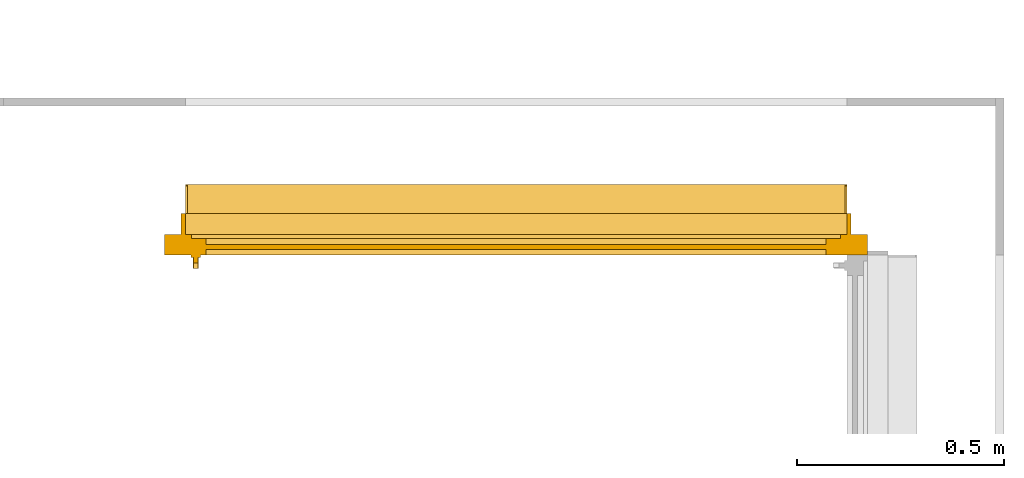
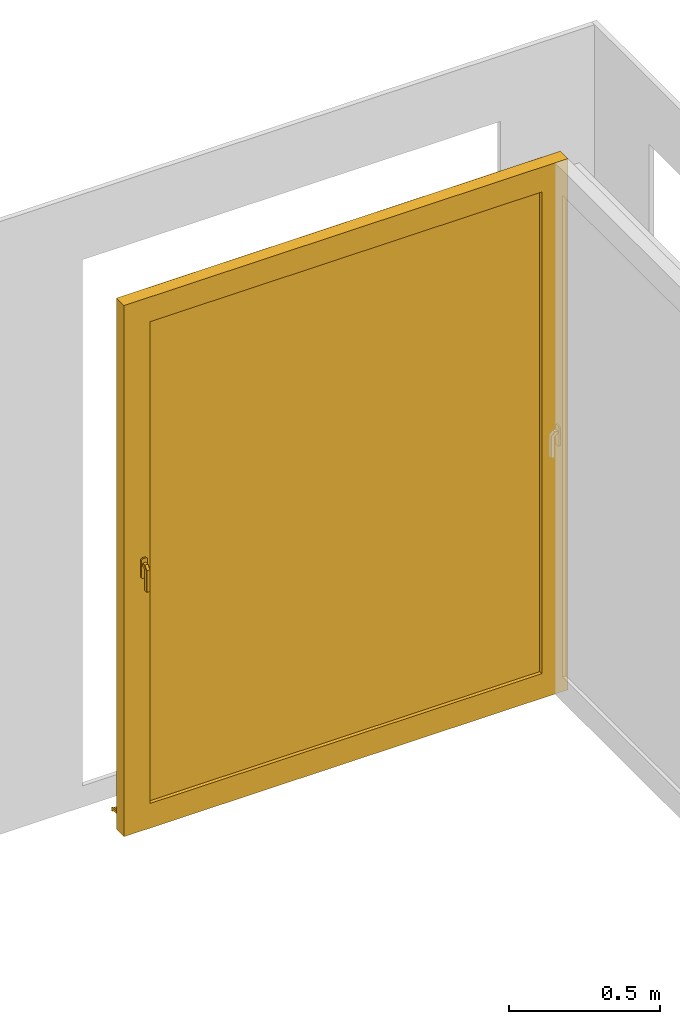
# One storey, part 6 of 6: 1 window.
"""IFC2X3 building model written with IfcOpenShell, lengths in centimetres."""

from ifc_helpers import new_model, entity, si_unit, converted_unit, derived_unit, direction, frame, origin, place, context, subcontext, project, spatial, faceted_brep, source, transform, mapped, material, material_list, type_object, type_shapes, element, save


model = new_model("IFC2X3")

# Units and contexts
model_context = context("Model", 3, precision=0.001, world=origin(), true_north=direction((6.12303176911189e-17, 1.0)))
body_context = subcontext(model_context, "Body", "Model", "MODEL_VIEW")
ifc_project = project(units=[si_unit("LENGTHUNIT", "METRE", prefix="CENTI"), si_unit("AREAUNIT", "SQUARE_METRE"), si_unit("VOLUMEUNIT", "CUBIC_METRE"), converted_unit("PLANEANGLEUNIT", "DEGREE", entity("IfcRatioMeasure", 0.0174532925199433), si_unit("PLANEANGLEUNIT", "RADIAN"), dimensions=[0, 0, 0, 0, 0, 0, 0]), si_unit("MASSUNIT", "GRAM", prefix="KILO"), derived_unit("MASSDENSITYUNIT", [(si_unit("MASSUNIT", "GRAM", prefix="KILO"), 1), (si_unit("LENGTHUNIT", "METRE"), -3)]), derived_unit("MOMENTOFINERTIAUNIT", [(si_unit("LENGTHUNIT", "METRE"), 4)]), si_unit("TIMEUNIT", "SECOND"), si_unit("FREQUENCYUNIT", "HERTZ"), si_unit("THERMODYNAMICTEMPERATUREUNIT", "DEGREE_CELSIUS"), derived_unit("THERMALTRANSMITTANCEUNIT", [(si_unit("MASSUNIT", "GRAM", prefix="KILO"), 1), (si_unit("THERMODYNAMICTEMPERATUREUNIT", "KELVIN"), -1), (si_unit("TIMEUNIT", "SECOND"), -3)]), derived_unit("VOLUMETRICFLOWRATEUNIT", [(si_unit("LENGTHUNIT", "METRE"), 3), (si_unit("TIMEUNIT", "SECOND"), -1)]), si_unit("ELECTRICCURRENTUNIT", "AMPERE"), si_unit("ELECTRICVOLTAGEUNIT", "VOLT"), si_unit("POWERUNIT", "WATT"), si_unit("FORCEUNIT", "NEWTON", prefix="KILO"), si_unit("ILLUMINANCEUNIT", "LUX"), si_unit("LUMINOUSFLUXUNIT", "LUMEN"), si_unit("LUMINOUSINTENSITYUNIT", "CANDELA"), derived_unit("USERDEFINED", [(si_unit("MASSUNIT", "GRAM", prefix="KILO"), -1), (si_unit("LENGTHUNIT", "METRE"), -2), (si_unit("TIMEUNIT", "SECOND"), 3), (si_unit("LUMINOUSFLUXUNIT", "LUMEN"), 1)]), derived_unit("LINEARVELOCITYUNIT", [(si_unit("LENGTHUNIT", "METRE"), 1), (si_unit("TIMEUNIT", "SECOND"), -1)]), si_unit("PRESSUREUNIT", "PASCAL"), derived_unit("USERDEFINED", [(si_unit("LENGTHUNIT", "METRE"), -2), (si_unit("MASSUNIT", "GRAM", prefix="KILO"), 1), (si_unit("TIMEUNIT", "SECOND"), -2)]), derived_unit("LINEARFORCEUNIT", [(si_unit("MASSUNIT", "GRAM", prefix="KILO"), 1), (si_unit("LENGTHUNIT", "METRE"), 1), (si_unit("TIMEUNIT", "SECOND"), -2), (si_unit("LENGTHUNIT", "METRE"), -1)]), derived_unit("PLANARFORCEUNIT", [(si_unit("MASSUNIT", "GRAM", prefix="KILO"), 1), (si_unit("LENGTHUNIT", "METRE"), 1), (si_unit("TIMEUNIT", "SECOND"), -2), (si_unit("LENGTHUNIT", "METRE"), -2)])], contexts=[model_context])

# Site, building, storey
site_placement = place(None, origin())
site = spatial("IfcSite", under=ifc_project, at=site_placement, Name="Surface", CompositionType="ELEMENT")
building_placement = place(site_placement, origin())
building = spatial("IfcBuilding", under=site, at=building_placement, CompositionType="ELEMENT")
storey_placement = place(building_placement, origin())
storey = spatial("IfcBuildingStorey", under=building, at=storey_placement, Name="1_Rez-de-chaussée", CompositionType="ELEMENT", Elevation=-7.93413063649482e-11)

# Window
ifc_material_1 = material(Name="Fenêtre - Poignée")
ifc_material_2 = material(Name="Fenêtre - Appui")
ifc_material_3 = material(Name="Fenêtre - Vitrage")
ifc_material_4 = material(Name="Fenêtre - Cadre")
ifc_material_list_1 = material_list([ifc_material_1, ifc_material_2, ifc_material_3, ifc_material_4])
ifc_material_list_2 = material_list([ifc_material_3, ifc_material_1, ifc_material_2, ifc_material_4])
window_style = type_object("IfcWindowStyle", Name="PF 1 Vantail - Droite blanc:160/210", ConstructionType="NOTDEFINED", OperationType="SINGLE_PANEL", ParameterTakesPrecedence=False, Sizeable=False, material=ifc_material_list_2)
shared_shape = source(origin(), body_context, "Body", "Brep", [
    faceted_brep([(8.06460096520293, -58.600000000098, 112.203392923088), (8.20339292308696, -58.600000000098, 112.064600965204), (8.20339292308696, -58.600000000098, 110.933230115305), (8.0667698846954, -58.600000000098, 110.796607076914), (6.93323011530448, -58.600000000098, 110.796607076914), (6.79660707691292, -58.600000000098, 110.933230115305), (6.79660707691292, -58.600000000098, 112.064600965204), (6.93539903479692, -58.600000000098, 112.203392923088), (8.06460096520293, -59.8913548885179, 112.203392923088), (8.20339292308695, -59.8338653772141, 112.064600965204), (8.20339292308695, -61.1646009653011, 110.733865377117), (8.20339292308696, -61.1646009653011, 102.0), (8.20339292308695, -60.0332301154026, 102.0), (8.20339292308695, -60.0332301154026, 110.265236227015), (8.20339292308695, -59.3652362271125, 110.933230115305), (8.0667698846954, -59.3086451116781, 110.796607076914), (6.93323011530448, -59.3086451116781, 110.796607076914), (6.79660707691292, -59.3652362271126, 110.933230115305), (6.79660707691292, -60.0332301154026, 110.265236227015), (6.79660707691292, -60.0332301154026, 102.0), (6.79660707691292, -61.1646009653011, 102.0), (6.79660707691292, -61.1646009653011, 110.733865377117), (6.79660707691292, -59.8338653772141, 112.064600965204), (6.93539903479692, -59.8913548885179, 112.203392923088), (8.06460096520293, -61.3033929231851, 110.79135488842), (8.0667698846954, -59.896607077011, 110.208645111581), (6.93323011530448, -59.896607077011, 110.208645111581), (6.93539903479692, -61.3033929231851, 110.79135488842), (8.06460096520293, -61.3033929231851, 102.0), (6.93539903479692, -61.3033929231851, 102.0), (6.93323011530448, -59.896607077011, 102.0), (8.0667698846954, -59.896607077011, 102.0)], [[[0, 1, 2, 3, 4, 5, 6, 7]], [[1, 0, 8, 9]], [[2, 1, 9, 10, 11, 12, 13, 14]], [[3, 2, 14, 15]], [[4, 3, 15, 16]], [[5, 4, 16, 17]], [[6, 5, 17, 18, 19, 20, 21, 22]], [[7, 6, 22, 23]], [[0, 7, 23, 8]], [[9, 8, 24, 10]], [[15, 14, 13, 25]], [[16, 15, 25, 26]], [[17, 16, 26, 18]], [[23, 22, 21, 27]], [[8, 23, 27, 24]], [[28, 29, 20, 19, 30, 31, 12, 11]], [[10, 24, 28, 11]], [[25, 13, 12, 31]], [[26, 25, 31, 30]], [[18, 26, 30, 19]], [[27, 21, 20, 29]], [[24, 27, 29, 28]]]),
    faceted_brep([(8.20000000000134, -58.6000000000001, 114.0), (6.79999999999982, -58.6000000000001, 114.0), (6.29999999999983, -58.6000000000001, 113.5), (6.29999999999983, -58.6000000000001, 106.499999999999), (6.79999999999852, -58.6000000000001, 106.0), (8.20000000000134, -58.6000000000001, 106.0), (8.69999999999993, -58.6000000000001, 106.499999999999), (8.69999999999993, -58.6000000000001, 113.5), (8.20000000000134, -58.0, 114.0), (8.69999999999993, -58.0, 113.5), (8.69999999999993, -58.0, 106.499999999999), (8.20000000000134, -58.0, 106.0), (6.79999999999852, -58.0, 106.0), (6.29999999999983, -58.0, 106.499999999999), (6.29999999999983, -58.0, 113.5), (6.79999999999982, -58.0, 114.0)], [[[0, 1, 2, 3, 4, 5, 6, 7]], [[8, 9, 10, 11, 12, 13, 14, 15]], [[1, 0, 8, 15]], [[2, 1, 15, 14]], [[3, 2, 14, 13]], [[4, 3, 13, 12]], [[5, 4, 12, 11]], [[6, 5, 11, 10]], [[7, 6, 10, 9]], [[0, 7, 9, 8]]]),
    faceted_brep([(165.0, -40.9971122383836, 3.07927954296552), (165.0, -49.4999999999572, 3.97296905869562), (165.0, -49.4999999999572, 5.0), (165.0, -50.0, 5.0), (165.0, -50.0, 3.4999999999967), (165.0, -41.4971122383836, 2.60631048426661), (165.0, -41.4971122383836, 2.0240114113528), (165.0, -40.9971122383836, 1.97145929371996), (5.0, -40.9971122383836, 3.07927954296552), (5.0, -40.9971122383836, 1.97145929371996), (5.0, -41.4971122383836, 2.0240114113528), (5.0, -41.4971122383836, 2.60631048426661), (5.0, -50.0, 3.4999999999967), (5.0, -50.0, 5.0), (5.0, -49.4999999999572, 5.0), (5.0, -49.4999999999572, 3.97296905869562)], [[[0, 1, 2, 3, 4, 5, 6, 7]], [[8, 9, 10, 11, 12, 13, 14, 15]], [[1, 0, 8, 15]], [[2, 1, 15, 14]], [[3, 2, 14, 13]], [[4, 3, 13, 12]], [[5, 4, 12, 11]], [[6, 5, 11, 10]], [[7, 6, 10, 9]], [[0, 7, 9, 8]]]),
    faceted_brep([(5.0, -40.9971122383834, 3.22187206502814), (5.0, -40.9971122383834, 3.07927954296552), (5.0, -49.4999999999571, 3.97296905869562), (5.0, -49.4999999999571, 4.47572319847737), (5.0, -41.3553008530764, 3.61968082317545), (5.0, -41.0998543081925, 3.48952430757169), (5.49999999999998, -49.4999999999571, 4.47572319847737), (5.49999999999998, -49.4999999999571, 3.97296905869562), (5.49999999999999, -40.9971122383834, 3.07927954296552), (5.49999999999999, -40.9971122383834, 3.22187206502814), (5.49999999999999, -41.0998543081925, 3.48952430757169), (5.49999999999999, -41.3553008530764, 3.61968082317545)], [[[0, 1, 2, 3, 4, 5]], [[6, 7, 8, 9, 10, 11]], [[2, 1, 8, 7]], [[3, 2, 7, 6]], [[4, 3, 6, 11]], [[4, 11, 10, 5]], [[10, 9, 0, 5]], [[1, 0, 9, 8]]]),
    faceted_brep([(164.5, -40.9971122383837, 3.22187206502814), (164.5, -40.9971122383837, 3.07927954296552), (164.5, -49.4999999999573, 3.97296905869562), (164.5, -49.4999999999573, 4.47572319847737), (164.5, -41.3553008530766, 3.61968082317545), (164.5, -41.0998543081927, 3.48952430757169), (165.0, -49.4999999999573, 4.47572319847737), (165.0, -49.4999999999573, 3.97296905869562), (165.0, -40.9971122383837, 3.07927954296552), (165.0, -40.9971122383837, 3.22187206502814), (165.0, -41.0998543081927, 3.48952430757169), (165.0, -41.3553008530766, 3.61968082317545)], [[[0, 1, 2, 3, 4, 5]], [[6, 7, 8, 9, 10, 11]], [[2, 1, 8, 7]], [[3, 2, 7, 6]], [[4, 3, 6, 11]], [[4, 11, 10, 5]], [[10, 9, 0, 5]], [[1, 0, 9, 8]]]),
    faceted_brep([(10.0, -55.4000000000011, 13.4999999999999), (10.0, -55.4000000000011, 208.5), (160.0, -55.4000000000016, 208.5), (160.0, -55.4000000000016, 13.4999999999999), (10.0, -56.6000000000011, 13.4999999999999), (10.0, -56.6000000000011, 208.5), (160.0, -56.6000000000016, 208.5), (160.0, -56.6000000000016, 13.4999999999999)], [[[0, 1, 2, 3]], [[1, 0, 4, 5]], [[3, 2, 6, 7]], [[0, 3, 7, 4]], [[4, 7, 6, 5]], [[2, 1, 5, 6]]]),
    faceted_brep([(10.0, -54.0, 208.5), (10.0, -58.0, 208.5), (10.0, -58.0, 13.4999999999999), (10.0, -54.0, 13.5), (160.0, -58.0, 13.4999999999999), (160.0, -54.0, 13.4999999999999), (160.0, -58.0, 208.5), (165.0, -58.0, 8.49999999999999), (165.0, -58.0, 213.5), (5.0, -58.0, 213.5), (5.0, -58.0, 8.49999999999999), (160.0, -54.0, 208.5), (5.0, -54.0, 8.50000000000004), (5.0, -54.0, 213.5), (165.0, -54.0, 213.5), (165.0, -54.0, 8.49999999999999)], [[[0, 1, 2, 3]], [[3, 2, 4, 5]], [[2, 1, 6, 4], [7, 8, 9, 10]], [[5, 4, 6, 11]], [[5, 11, 0, 3], [12, 13, 14, 15]], [[9, 13, 12, 10]], [[10, 12, 15, 7]], [[7, 15, 14, 8]], [[11, 6, 1, 0]], [[8, 14, 13, 9]]], outer=[[True], [True], [False, True], [True], [False, True], [True], [True], [True], [True], [True]]),
    faceted_brep([(0.0, -58.0, 3.5), (0.0, -53.0, 3.5), (5.0, -53.0, 3.5), (5.0, -50.0, 3.5), (165.0, -50.0, 3.5), (165.0, -53.0, 3.5), (170.0, -53.0, 3.5), (170.0, -58.0, 3.5), (0.0, -58.0, 218.5), (0.0, -53.0, 218.5), (170.0, -53.0, 218.5), (165.0, -53.0, 7.43761424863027), (5.0, -53.0, 7.43761424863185), (6.49999999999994, -53.0, 212.0), (6.49999999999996, -53.0, 10.0), (163.5, -53.0, 10.0), (163.5, -53.0, 212.0), (5.0, -48.0, 6.09786828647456), (5.0, -48.0, 4.50000000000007), (5.0, -49.0, 4.50000000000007), (5.0, -49.0, 5.0), (5.0, -50.0, 5.0), (165.0, -50.0, 5.0), (165.0, -49.0, 5.0), (165.0, -49.0, 4.50000000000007), (165.0, -48.0, 4.50000000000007), (165.0, -48.0, 6.09786828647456), (170.0, -58.0, 218.5), (165.0, -58.0, 213.5), (165.0, -58.0, 8.5), (5.0, -58.0, 8.50000000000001), (5.0, -58.0, 213.5), (6.49999999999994, -54.0, 212.0), (6.49999999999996, -54.0, 10.0), (163.5, -54.0, 10.0), (163.5, -54.0, 212.0), (165.0, -54.0, 213.5), (5.0, -54.0, 213.5), (5.0, -54.0, 8.5), (165.0, -54.0, 8.49999999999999)], [[[0, 1, 2, 3, 4, 5, 6, 7]], [[1, 0, 8, 9]], [[1, 9, 10, 6, 5, 11, 12, 2], [13, 14, 15, 16]], [[12, 17, 18, 19, 20, 21, 3, 2]], [[3, 21, 22, 4]], [[4, 22, 23, 24, 25, 26, 11, 5]], [[6, 10, 27, 7]], [[0, 7, 27, 8], [28, 29, 30, 31]], [[13, 32, 33, 14]], [[33, 34, 15, 14]], [[35, 16, 15, 34]], [[17, 12, 11, 26]], [[36, 37, 38, 39], [32, 35, 34, 33]], [[38, 37, 31, 30]], [[30, 29, 39, 38]], [[28, 36, 39, 29]], [[18, 17, 26, 25]], [[19, 18, 25, 24]], [[20, 19, 24, 23]], [[21, 20, 23, 22]], [[13, 16, 35, 32]], [[37, 36, 28, 31]], [[10, 9, 8, 27]]]),
    faceted_brep([(5.0, -48.0, 3.5), (5.0, -53.0, 3.5), (4.0, -53.0, 3.5), (4.0, -48.0, 3.5), (5.0, -48.0, 213.5), (5.0, -53.0, 213.5), (165.0, -53.0, 213.5), (165.0, -53.0, 3.49999999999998), (166.0, -53.0, 3.49999999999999), (166.0, -53.0, 214.5), (4.0, -53.0, 214.5), (4.0, -48.0, 214.5), (166.0, -48.0, 214.5), (166.0, -48.0, 3.49999999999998), (165.0, -48.0, 3.49999999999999), (165.0, -48.0, 213.5)], [[[0, 1, 2, 3]], [[1, 0, 4, 5]], [[2, 1, 5, 6, 7, 8, 9, 10]], [[3, 2, 10, 11]], [[0, 3, 11, 12, 13, 14, 15, 4]], [[6, 15, 14, 7]], [[14, 13, 8, 7]], [[12, 9, 8, 13]], [[5, 4, 15, 6]], [[11, 10, 9, 12]]]),
])
type_shapes(window_style, [shared_shape])
window_placement = place(storey_placement, frame((-853.177260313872, 743.992317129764, 0.0)))
element("IfcWindow", 1, at=window_placement, inside=storey, type_object=window_style, material=ifc_material_list_1, Name="PF 1 Vantail - Droite blanc:160/210", ObjectType="PF 1 Vantail - Droite blanc:160/210", OverallHeight=221.5, OverallWidth=170.0, context=body_context, shape_type="MappedRepresentation", body=[
    mapped(shared_shape, transform((0.0, 0.0, 0.0), scale=1.0)),
])

save(model, "model.ifc")
